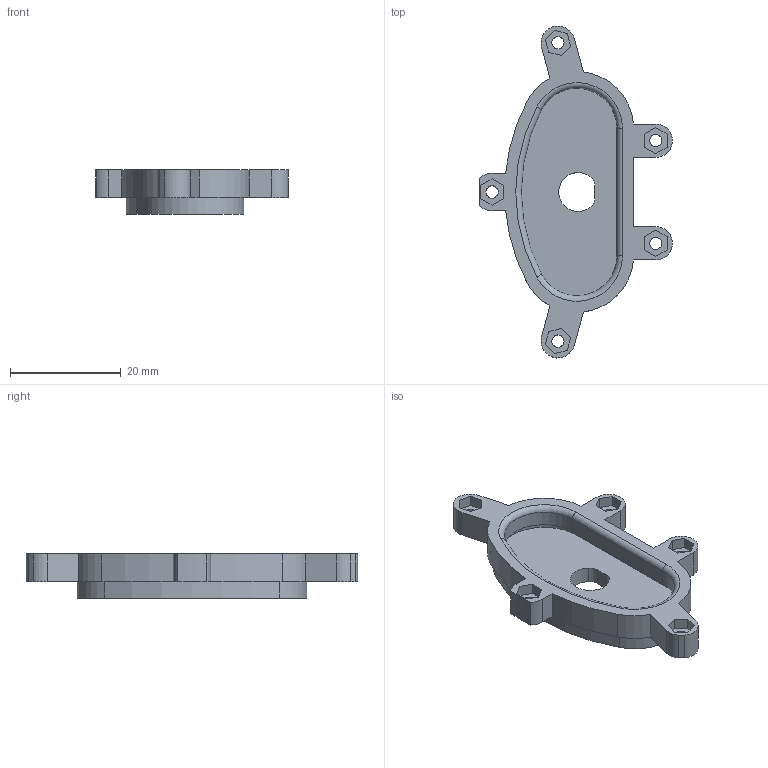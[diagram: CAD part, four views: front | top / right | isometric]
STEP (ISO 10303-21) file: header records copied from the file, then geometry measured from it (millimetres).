
FILE_DESCRIPTION(/* description */ (''),/* implementation_level */ '2;1');
FILE_NAME(/* name */ 'cast_bellow_upper_platform.stp',/* time_stamp */ '2025-08-17T18:20:28+02:00',/* author */ ('MehdiBelhadj'),/* organization */ (''),/* preprocessor_version */ 'ST-DEVELOPER v20.1',/* originating_system */ 'Autodesk Inventor 2026',/* authorisation */ '');
FILE_SCHEMA (('AUTOMOTIVE_DESIGN { 1 0 10303 214 3 1 1 }'));
Length unit declared in the file: millimetre
Products named in the file (1): Balg_Oben_Unten
Bounding box: 34.74 x 59.82 x 8 mm (x, y, z)
Volume: 4312.7 mm3; surface area: 4104.4 mm2
Topology: 1 solids, 1 shells, 98 faces, 252 edges, 164 vertices
Faces by surface type: plane 60, cylinder 35, torus 3
Full cylindrical faces by diameter (mm): 2.2 x5
Entity records: 3047 total; most frequent: DIRECTION 530, CARTESIAN_POINT 515, ORIENTED_EDGE 504, EDGE_CURVE 252, AXIS2_PLACEMENT_3D 179, LINE 172, VECTOR 172, VERTEX_POINT 164
